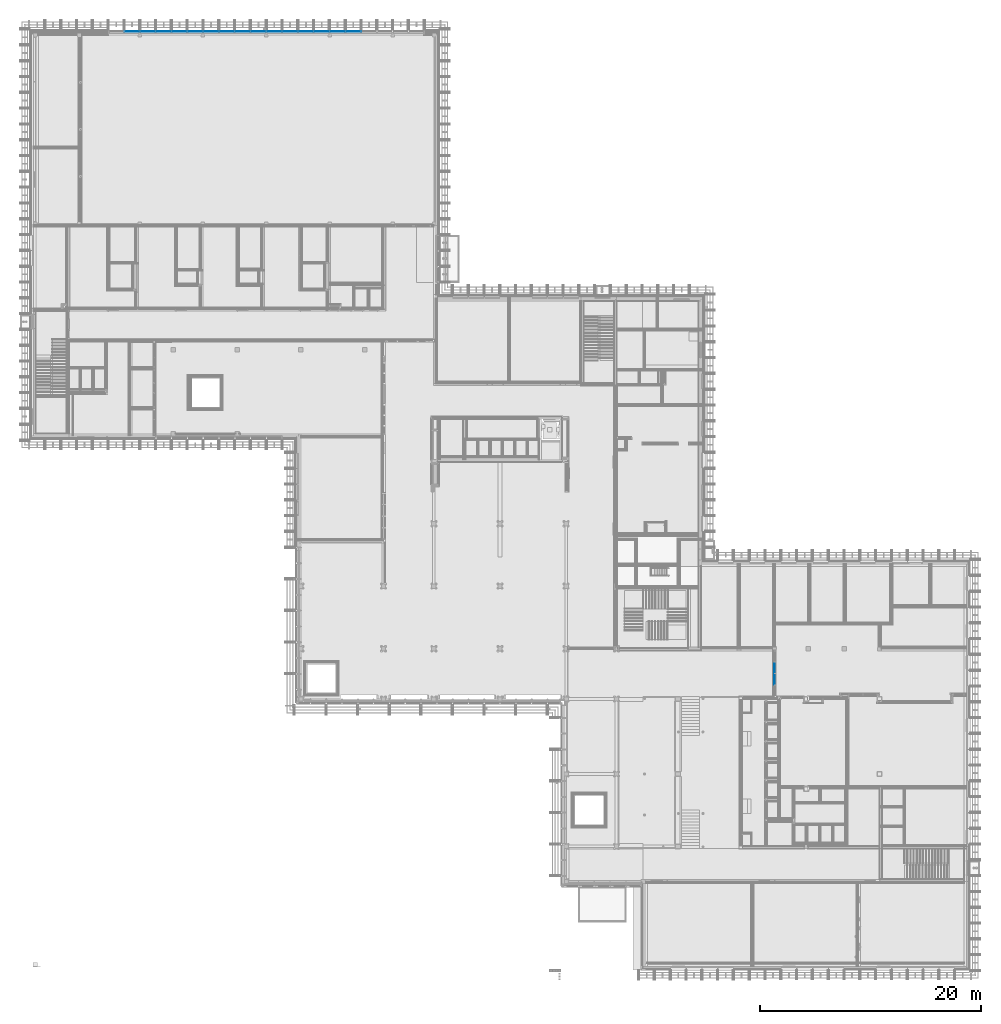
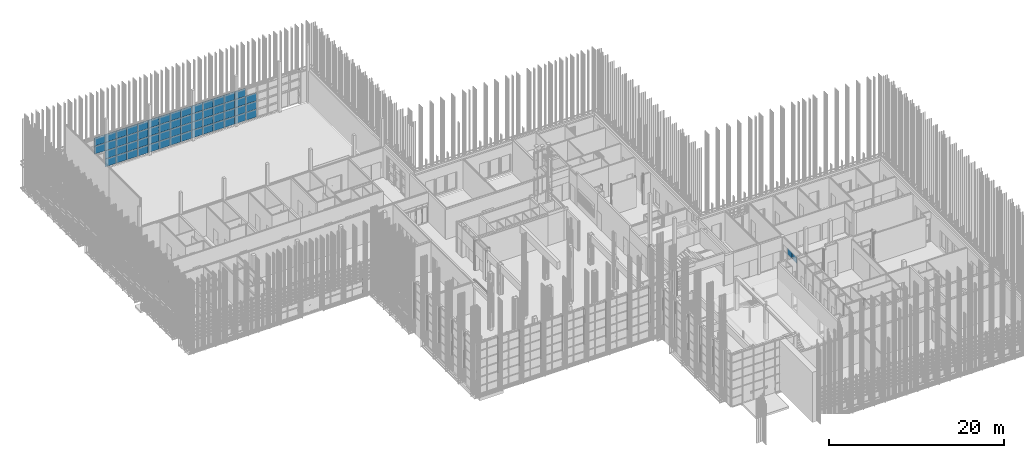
# One storey, part 56 of 260: 59 plates, 2 elements without a shape of their own.
"""IFC2X3 building model written with IfcOpenShell, lengths in millimetres."""

from ifc_helpers import new_model, entity, si_unit, converted_unit, derived_unit, money_unit, direction, frame, origin_with_axes, place, context, subcontext, project, spatial, faceted_brep, source, transform, mapped, material, type_object, element, aggregate, save


model = new_model("IFC2X3")

# Units and contexts
model_context = context("Model", 3, precision=0.01, world=origin_with_axes(), true_north=direction((0.0, 1.0)))
body_context = subcontext(model_context, "Body", "Model", "MODEL_VIEW")
ifc_project = project(units=[si_unit("LENGTHUNIT", "METRE", prefix="MILLI"), si_unit("AREAUNIT", "SQUARE_METRE"), si_unit("VOLUMEUNIT", "CUBIC_METRE"), converted_unit("PLANEANGLEUNIT", "DEGREE", entity("IfcPlaneAngleMeasure", 0.0174532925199), si_unit("PLANEANGLEUNIT", "RADIAN"), dimensions=[0, 0, 0, 0, 0, 0, 0]), money_unit("EUR"), converted_unit("TIMEUNIT", "Year", entity("IfcTimeMeasure", 31556926.0), si_unit("TIMEUNIT", "SECOND"), dimensions=[0, 0, 1, 0, 0, 0, 0]), si_unit("MASSUNIT", "GRAM", prefix="KILO"), si_unit("THERMODYNAMICTEMPERATUREUNIT", "DEGREE_CELSIUS"), si_unit("LUMINOUSINTENSITYUNIT", "LUMEN"), si_unit("ENERGYUNIT", "JOULE", prefix="MEGA"), derived_unit("THERMALCONDUCTANCEUNIT", [(si_unit("POWERUNIT", "WATT"), 1), (si_unit("LENGTHUNIT", "METRE"), -1), (si_unit("THERMODYNAMICTEMPERATUREUNIT", "KELVIN"), -1)]), derived_unit("SPECIFICHEATCAPACITYUNIT", [(si_unit("ENERGYUNIT", "JOULE"), 1), (si_unit("MASSUNIT", "GRAM", prefix="KILO"), -1), (si_unit("THERMODYNAMICTEMPERATUREUNIT", "KELVIN"), -1)]), derived_unit("MASSDENSITYUNIT", [(si_unit("MASSUNIT", "GRAM", prefix="KILO"), 1), (si_unit("VOLUMEUNIT", "CUBIC_METRE"), -1)])], contexts=[model_context])

# Site, building, storey
site_placement = place(None, origin_with_axes())
site = spatial("IfcSite", under=ifc_project, at=site_placement, Name="Kolde pst 67a", CompositionType="ELEMENT")
building_placement = place(site_placement, origin_with_axes())
building = spatial("IfcBuilding", under=site, at=building_placement, Name="Riigigümnaasium", CompositionType="ELEMENT")
storey_placement = place(building_placement, origin_with_axes())
storey = spatial("IfcBuildingStorey", under=building, at=storey_placement, Name="1. korrus", CompositionType="ELEMENT", Elevation=0.0)

# Curtain wall, plates
curtain_wall_type = type_object("IfcCurtainWallType", Name="Curtain Wall Type", PredefinedType="NOTDEFINED")
curtain_wall_1_placement = place(storey_placement, frame((10366.0828546, 84639.9999608, 0.0), z_axis=(0.0, 0.0, 1.0), x_axis=(1.0, 0.0, 0.0)))
curtain_wall_1 = element("IfcCurtainWall", 1, at=curtain_wall_1_placement, inside=storey, type_object=curtain_wall_type, Name="KLAASFASSAAD")
ifc_material_1 = material(Name="_KLAAS - kirgas")
plate_type_1 = type_object("IfcPlateType", Name="Turvaklaas 1420 x 1115 x 48", PredefinedType="CURTAIN_PANEL")
shared_shape_1 = source(origin_with_axes(), body_context, "Body", "Brep", [
    faceted_brep([(-1425.00000328, 1144.99999508, -24.0), (-1425.00000328, 1144.99999508, 24.0), (-4.99999672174, 1144.99999508, 24.0), (-4.99999672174, 1144.99999508, -24.0), (-1425.00000328, 30.0000016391, -24.0), (-1425.00000328, 30.0000016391, 24.0), (-4.99999672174, 30.0000016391, 24.0), (-4.99999672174, 30.0000016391, -24.0)], [[[0, 1, 2, 3]], [[4, 5, 1, 0]], [[1, 5, 6, 2]], [[3, 2, 6, 7]], [[0, 3, 7, 4]], [[7, 6, 5, 4]]]),
])
plate_1_placement = place(curtain_wall_1_placement, frame((0.0, 0.0, 575.0), z_axis=(0.0, 0.0, 1.0), x_axis=(-1.0, 0.0, 0.0)))
plate_1 = element("IfcPlate", 2, at=plate_1_placement, type_object=plate_type_1, material=ifc_material_1, Name="Panel-Turvaklaas-027", ObjectType="CURTAIN_PANEL", context=body_context, shape_type="MappedRepresentation", body=[
    mapped(shared_shape_1, transform((715.0, 0.0, -575.0), x_axis=(1.0, 0.0, 0.0), y_axis=(0.0, 0.0, 1.0), z_axis=(0.0, -1.0, 0.0))),
])
plate_2_placement = place(curtain_wall_1_placement, frame((1430.0, 0.0, 575.0), z_axis=(0.0, 0.0, 1.0), x_axis=(-1.0, 0.0, 0.0)))
plate_2 = element("IfcPlate", 3, at=plate_2_placement, type_object=plate_type_1, material=ifc_material_1, Name="Panel-Turvaklaas-027", ObjectType="CURTAIN_PANEL", context=body_context, shape_type="MappedRepresentation", body=[
    mapped(shared_shape_1, transform((715.0, 0.0, -575.0), x_axis=(1.0, 0.0, 0.0), y_axis=(0.0, 0.0, 1.0), z_axis=(0.0, -1.0, 0.0))),
])
plate_3_placement = place(curtain_wall_1_placement, frame((2860.0, 0.0, 575.0), z_axis=(0.0, 0.0, 1.0), x_axis=(-1.0, 0.0, 0.0)))
plate_3 = element("IfcPlate", 4, at=plate_3_placement, type_object=plate_type_1, material=ifc_material_1, Name="Panel-Turvaklaas-027", ObjectType="CURTAIN_PANEL", context=body_context, shape_type="MappedRepresentation", body=[
    mapped(shared_shape_1, transform((715.0, 0.0, -575.0), x_axis=(1.0, 0.0, 0.0), y_axis=(0.0, 0.0, 1.0), z_axis=(0.0, -1.0, 0.0))),
])
plate_4_placement = place(curtain_wall_1_placement, frame((4290.0, 0.0, 575.0), z_axis=(0.0, 0.0, 1.0), x_axis=(-1.0, 0.0, 0.0)))
plate_4 = element("IfcPlate", 5, at=plate_4_placement, type_object=plate_type_1, material=ifc_material_1, Name="Panel-Turvaklaas-027", ObjectType="CURTAIN_PANEL", context=body_context, shape_type="MappedRepresentation", body=[
    mapped(shared_shape_1, transform((715.0, 0.0, -575.0), x_axis=(1.0, 0.0, 0.0), y_axis=(0.0, 0.0, 1.0), z_axis=(0.0, -1.0, 0.0))),
])
plate_5_placement = place(curtain_wall_1_placement, frame((5720.0, 0.0, 575.0), z_axis=(0.0, 0.0, 1.0), x_axis=(-1.0, 0.0, 0.0)))
plate_5 = element("IfcPlate", 6, at=plate_5_placement, type_object=plate_type_1, material=ifc_material_1, Name="Panel-Turvaklaas-027", ObjectType="CURTAIN_PANEL", context=body_context, shape_type="MappedRepresentation", body=[
    mapped(shared_shape_1, transform((715.0, 0.0, -575.0), x_axis=(1.0, 0.0, 0.0), y_axis=(0.0, 0.0, 1.0), z_axis=(0.0, -1.0, 0.0))),
])
plate_6_placement = place(curtain_wall_1_placement, frame((7150.0, 0.0, 575.0), z_axis=(0.0, 0.0, 1.0), x_axis=(-1.0, 0.0, 0.0)))
plate_6 = element("IfcPlate", 7, at=plate_6_placement, type_object=plate_type_1, material=ifc_material_1, Name="Panel-Turvaklaas-027", ObjectType="CURTAIN_PANEL", context=body_context, shape_type="MappedRepresentation", body=[
    mapped(shared_shape_1, transform((715.0, 0.0, -575.0), x_axis=(1.0, 0.0, 0.0), y_axis=(0.0, 0.0, 1.0), z_axis=(0.0, -1.0, 0.0))),
])
plate_7_placement = place(curtain_wall_1_placement, frame((8580.0, 0.0, 575.0), z_axis=(0.0, 0.0, 1.0), x_axis=(-1.0, 0.0, 0.0)))
plate_7 = element("IfcPlate", 8, at=plate_7_placement, type_object=plate_type_1, material=ifc_material_1, Name="Panel-Turvaklaas-027", ObjectType="CURTAIN_PANEL", context=body_context, shape_type="MappedRepresentation", body=[
    mapped(shared_shape_1, transform((715.0, 0.0, -575.0), x_axis=(1.0, 0.0, 0.0), y_axis=(0.0, 0.0, 1.0), z_axis=(0.0, -1.0, 0.0))),
])
plate_8_placement = place(curtain_wall_1_placement, frame((10010.0, 0.0, 575.0), z_axis=(0.0, 0.0, 1.0), x_axis=(-1.0, 0.0, 0.0)))
plate_8 = element("IfcPlate", 9, at=plate_8_placement, type_object=plate_type_1, material=ifc_material_1, Name="Panel-Turvaklaas-027", ObjectType="CURTAIN_PANEL", context=body_context, shape_type="MappedRepresentation", body=[
    mapped(shared_shape_1, transform((715.0, 0.0, -575.0), x_axis=(1.0, 0.0, 0.0), y_axis=(0.0, 0.0, 1.0), z_axis=(0.0, -1.0, 0.0))),
])
plate_9_placement = place(curtain_wall_1_placement, frame((11440.0, 0.0, 575.0), z_axis=(0.0, 0.0, 1.0), x_axis=(-1.0, 0.0, 0.0)))
plate_9 = element("IfcPlate", 10, at=plate_9_placement, type_object=plate_type_1, material=ifc_material_1, Name="Panel-Turvaklaas-027", ObjectType="CURTAIN_PANEL", context=body_context, shape_type="MappedRepresentation", body=[
    mapped(shared_shape_1, transform((715.0, 0.0, -575.0), x_axis=(1.0, 0.0, 0.0), y_axis=(0.0, 0.0, 1.0), z_axis=(0.0, -1.0, 0.0))),
])
plate_10_placement = place(curtain_wall_1_placement, frame((12870.0, 0.0, 575.0), z_axis=(0.0, 0.0, 1.0), x_axis=(-1.0, 0.0, 0.0)))
plate_10 = element("IfcPlate", 11, at=plate_10_placement, type_object=plate_type_1, material=ifc_material_1, Name="Panel-Turvaklaas-027", ObjectType="CURTAIN_PANEL", context=body_context, shape_type="MappedRepresentation", body=[
    mapped(shared_shape_1, transform((715.0, 0.0, -575.0), x_axis=(1.0, 0.0, 0.0), y_axis=(0.0, 0.0, 1.0), z_axis=(0.0, -1.0, 0.0))),
])
plate_11_placement = place(curtain_wall_1_placement, frame((14300.0, 0.0, 575.0), z_axis=(0.0, 0.0, 1.0), x_axis=(-1.0, 0.0, 0.0)))
plate_11 = element("IfcPlate", 12, at=plate_11_placement, type_object=plate_type_1, material=ifc_material_1, Name="Panel-Turvaklaas-027", ObjectType="CURTAIN_PANEL", context=body_context, shape_type="MappedRepresentation", body=[
    mapped(shared_shape_1, transform((715.0, 0.0, -575.0), x_axis=(1.0, 0.0, 0.0), y_axis=(0.0, 0.0, 1.0), z_axis=(0.0, -1.0, 0.0))),
])
plate_12_placement = place(curtain_wall_1_placement, frame((15730.0, 0.0, 575.0), z_axis=(0.0, 0.0, 1.0), x_axis=(-1.0, 0.0, 0.0)))
plate_12 = element("IfcPlate", 13, at=plate_12_placement, type_object=plate_type_1, material=ifc_material_1, Name="Panel-Turvaklaas-027", ObjectType="CURTAIN_PANEL", context=body_context, shape_type="MappedRepresentation", body=[
    mapped(shared_shape_1, transform((715.0, 0.0, -575.0), x_axis=(1.0, 0.0, 0.0), y_axis=(0.0, 0.0, 1.0), z_axis=(0.0, -1.0, 0.0))),
])
plate_13_placement = place(curtain_wall_1_placement, frame((17160.0, 0.0, 575.0), z_axis=(0.0, 0.0, 1.0), x_axis=(-1.0, 0.0, 0.0)))
plate_13 = element("IfcPlate", 14, at=plate_13_placement, type_object=plate_type_1, material=ifc_material_1, Name="Panel-Turvaklaas-027", ObjectType="CURTAIN_PANEL", context=body_context, shape_type="MappedRepresentation", body=[
    mapped(shared_shape_1, transform((715.0, 0.0, -575.0), x_axis=(1.0, 0.0, 0.0), y_axis=(0.0, 0.0, 1.0), z_axis=(0.0, -1.0, 0.0))),
])
plate_14_placement = place(curtain_wall_1_placement, frame((18590.0, 0.0, 575.0), z_axis=(0.0, 0.0, 1.0), x_axis=(-1.0, 0.0, 0.0)))
plate_14 = element("IfcPlate", 15, at=plate_14_placement, type_object=plate_type_1, material=ifc_material_1, Name="Panel-Turvaklaas-027", ObjectType="CURTAIN_PANEL", context=body_context, shape_type="MappedRepresentation", body=[
    mapped(shared_shape_1, transform((715.0, 0.0, -575.0), x_axis=(1.0, 0.0, 0.0), y_axis=(0.0, 0.0, 1.0), z_axis=(0.0, -1.0, 0.0))),
])
plate_type_2 = type_object("IfcPlateType", Name="Turvaklaas 1420 x 1140 x 48", PredefinedType="CURTAIN_PANEL")
shared_shape_2 = source(origin_with_axes(), body_context, "Body", "Brep", [
    faceted_brep([(-1425.00000328, 1144.99999508, -24.0), (-1425.00000328, 1144.99999508, 24.0), (-4.99999672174, 1144.99999508, 24.0), (-4.99999672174, 1144.99999508, -24.0), (-1425.00000328, 4.99999672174, -24.0), (-1425.00000328, 4.99999672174, 24.0), (-4.99999672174, 4.99999672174, 24.0), (-4.99999672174, 4.99999672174, -24.0)], [[[0, 1, 2, 3]], [[4, 5, 1, 0]], [[1, 5, 6, 2]], [[3, 2, 6, 7]], [[0, 3, 7, 4]], [[7, 6, 5, 4]]]),
])
plate_15_placement = place(curtain_wall_1_placement, frame((0.0, 0.0, 1725.0), z_axis=(0.0, 0.0, 1.0), x_axis=(-1.0, 0.0, 0.0)))
plate_15 = element("IfcPlate", 16, at=plate_15_placement, type_object=plate_type_2, material=ifc_material_1, Name="Panel-Turvaklaas-029", ObjectType="CURTAIN_PANEL", context=body_context, shape_type="MappedRepresentation", body=[
    mapped(shared_shape_2, transform((715.0, 0.0, -575.0), x_axis=(1.0, 0.0, 0.0), y_axis=(0.0, 0.0, 1.0), z_axis=(0.0, -1.0, 0.0))),
])
plate_16_placement = place(curtain_wall_1_placement, frame((1430.0, 0.0, 1725.0), z_axis=(0.0, 0.0, 1.0), x_axis=(-1.0, 0.0, 0.0)))
plate_16 = element("IfcPlate", 17, at=plate_16_placement, type_object=plate_type_2, material=ifc_material_1, Name="Panel-Turvaklaas-030", ObjectType="CURTAIN_PANEL", context=body_context, shape_type="MappedRepresentation", body=[
    mapped(shared_shape_2, transform((715.0, 0.0, -575.0), x_axis=(1.0, 0.0, 0.0), y_axis=(0.0, 0.0, 1.0), z_axis=(0.0, -1.0, 0.0))),
])
plate_17_placement = place(curtain_wall_1_placement, frame((2860.0, 0.0, 1725.0), z_axis=(0.0, 0.0, 1.0), x_axis=(-1.0, 0.0, 0.0)))
plate_17 = element("IfcPlate", 18, at=plate_17_placement, type_object=plate_type_2, material=ifc_material_1, Name="Panel-Turvaklaas-031", ObjectType="CURTAIN_PANEL", context=body_context, shape_type="MappedRepresentation", body=[
    mapped(shared_shape_2, transform((715.0, 0.0, -575.0), x_axis=(1.0, 0.0, 0.0), y_axis=(0.0, 0.0, 1.0), z_axis=(0.0, -1.0, 0.0))),
])
plate_18_placement = place(curtain_wall_1_placement, frame((4290.0, 0.0, 1725.0), z_axis=(0.0, 0.0, 1.0), x_axis=(-1.0, 0.0, 0.0)))
plate_18 = element("IfcPlate", 19, at=plate_18_placement, type_object=plate_type_2, material=ifc_material_1, Name="Panel-Turvaklaas-032", ObjectType="CURTAIN_PANEL", context=body_context, shape_type="MappedRepresentation", body=[
    mapped(shared_shape_2, transform((715.0, 0.0, -575.0), x_axis=(1.0, 0.0, 0.0), y_axis=(0.0, 0.0, 1.0), z_axis=(0.0, -1.0, 0.0))),
])
plate_19_placement = place(curtain_wall_1_placement, frame((5720.0, 0.0, 1725.0), z_axis=(0.0, 0.0, 1.0), x_axis=(-1.0, 0.0, 0.0)))
plate_19 = element("IfcPlate", 20, at=plate_19_placement, type_object=plate_type_2, material=ifc_material_1, Name="Panel-Turvaklaas-033", ObjectType="CURTAIN_PANEL", context=body_context, shape_type="MappedRepresentation", body=[
    mapped(shared_shape_2, transform((715.0, 0.0, -575.0), x_axis=(1.0, 0.0, 0.0), y_axis=(0.0, 0.0, 1.0), z_axis=(0.0, -1.0, 0.0))),
])
plate_20_placement = place(curtain_wall_1_placement, frame((7150.0, 0.0, 1725.0), z_axis=(0.0, 0.0, 1.0), x_axis=(-1.0, 0.0, 0.0)))
plate_20 = element("IfcPlate", 21, at=plate_20_placement, type_object=plate_type_2, material=ifc_material_1, Name="Panel-Turvaklaas-034", ObjectType="CURTAIN_PANEL", context=body_context, shape_type="MappedRepresentation", body=[
    mapped(shared_shape_2, transform((715.0, 0.0, -575.0), x_axis=(1.0, 0.0, 0.0), y_axis=(0.0, 0.0, 1.0), z_axis=(0.0, -1.0, 0.0))),
])
plate_21_placement = place(curtain_wall_1_placement, frame((8580.0, 0.0, 1725.0), z_axis=(0.0, 0.0, 1.0), x_axis=(-1.0, 0.0, 0.0)))
plate_21 = element("IfcPlate", 22, at=plate_21_placement, type_object=plate_type_2, material=ifc_material_1, Name="Panel-Turvaklaas-035", ObjectType="CURTAIN_PANEL", context=body_context, shape_type="MappedRepresentation", body=[
    mapped(shared_shape_2, transform((715.0, 0.0, -575.0), x_axis=(1.0, 0.0, 0.0), y_axis=(0.0, 0.0, 1.0), z_axis=(0.0, -1.0, 0.0))),
])
plate_22_placement = place(curtain_wall_1_placement, frame((10010.0, 0.0, 1725.0), z_axis=(0.0, 0.0, 1.0), x_axis=(-1.0, 0.0, 0.0)))
plate_22 = element("IfcPlate", 23, at=plate_22_placement, type_object=plate_type_2, material=ifc_material_1, Name="Panel-Turvaklaas-036", ObjectType="CURTAIN_PANEL", context=body_context, shape_type="MappedRepresentation", body=[
    mapped(shared_shape_2, transform((715.0, 0.0, -575.0), x_axis=(1.0, 0.0, 0.0), y_axis=(0.0, 0.0, 1.0), z_axis=(0.0, -1.0, 0.0))),
])
plate_23_placement = place(curtain_wall_1_placement, frame((11440.0, 0.0, 1725.0), z_axis=(0.0, 0.0, 1.0), x_axis=(-1.0, 0.0, 0.0)))
plate_23 = element("IfcPlate", 24, at=plate_23_placement, type_object=plate_type_2, material=ifc_material_1, Name="Panel-Turvaklaas-037", ObjectType="CURTAIN_PANEL", context=body_context, shape_type="MappedRepresentation", body=[
    mapped(shared_shape_2, transform((715.0, 0.0, -575.0), x_axis=(1.0, 0.0, 0.0), y_axis=(0.0, 0.0, 1.0), z_axis=(0.0, -1.0, 0.0))),
])
plate_24_placement = place(curtain_wall_1_placement, frame((12870.0, 0.0, 1725.0), z_axis=(0.0, 0.0, 1.0), x_axis=(-1.0, 0.0, 0.0)))
plate_24 = element("IfcPlate", 25, at=plate_24_placement, type_object=plate_type_2, material=ifc_material_1, Name="Panel-Turvaklaas-038", ObjectType="CURTAIN_PANEL", context=body_context, shape_type="MappedRepresentation", body=[
    mapped(shared_shape_2, transform((715.0, 0.0, -575.0), x_axis=(1.0, 0.0, 0.0), y_axis=(0.0, 0.0, 1.0), z_axis=(0.0, -1.0, 0.0))),
])
plate_25_placement = place(curtain_wall_1_placement, frame((14300.0, 0.0, 1725.0), z_axis=(0.0, 0.0, 1.0), x_axis=(-1.0, 0.0, 0.0)))
plate_25 = element("IfcPlate", 26, at=plate_25_placement, type_object=plate_type_2, material=ifc_material_1, Name="Panel-Turvaklaas-039", ObjectType="CURTAIN_PANEL", context=body_context, shape_type="MappedRepresentation", body=[
    mapped(shared_shape_2, transform((715.0, 0.0, -575.0), x_axis=(1.0, 0.0, 0.0), y_axis=(0.0, 0.0, 1.0), z_axis=(0.0, -1.0, 0.0))),
])
plate_26_placement = place(curtain_wall_1_placement, frame((15730.0, 0.0, 1725.0), z_axis=(0.0, 0.0, 1.0), x_axis=(-1.0, 0.0, 0.0)))
plate_26 = element("IfcPlate", 27, at=plate_26_placement, type_object=plate_type_2, material=ifc_material_1, Name="Panel-Turvaklaas-040", ObjectType="CURTAIN_PANEL", context=body_context, shape_type="MappedRepresentation", body=[
    mapped(shared_shape_2, transform((715.0, 0.0, -575.0), x_axis=(1.0, 0.0, 0.0), y_axis=(0.0, 0.0, 1.0), z_axis=(0.0, -1.0, 0.0))),
])
plate_27_placement = place(curtain_wall_1_placement, frame((17160.0, 0.0, 1725.0), z_axis=(0.0, 0.0, 1.0), x_axis=(-1.0, 0.0, 0.0)))
plate_27 = element("IfcPlate", 28, at=plate_27_placement, type_object=plate_type_2, material=ifc_material_1, Name="Panel-Turvaklaas-041", ObjectType="CURTAIN_PANEL", context=body_context, shape_type="MappedRepresentation", body=[
    mapped(shared_shape_2, transform((715.0, 0.0, -575.0), x_axis=(1.0, 0.0, 0.0), y_axis=(0.0, 0.0, 1.0), z_axis=(0.0, -1.0, 0.0))),
])
plate_28_placement = place(curtain_wall_1_placement, frame((18590.0, 0.0, 1725.0), z_axis=(0.0, 0.0, 1.0), x_axis=(-1.0, 0.0, 0.0)))
plate_28 = element("IfcPlate", 29, at=plate_28_placement, type_object=plate_type_2, material=ifc_material_1, Name="Panel-Turvaklaas-042", ObjectType="CURTAIN_PANEL", context=body_context, shape_type="MappedRepresentation", body=[
    mapped(shared_shape_2, transform((715.0, 0.0, -575.0), x_axis=(1.0, 0.0, 0.0), y_axis=(0.0, 0.0, 1.0), z_axis=(0.0, -1.0, 0.0))),
])
plate_29_placement = place(curtain_wall_1_placement, frame((-1430.0, 0.0, 2875.0), z_axis=(0.0, 0.0, 1.0), x_axis=(-1.0, 0.0, 0.0)))
plate_29 = element("IfcPlate", 30, at=plate_29_placement, type_object=plate_type_2, material=ifc_material_1, Name="Panel-Turvaklaas-048", ObjectType="CURTAIN_PANEL", context=body_context, shape_type="MappedRepresentation", body=[
    mapped(shared_shape_2, transform((715.0, 0.0, -575.0), x_axis=(1.0, 0.0, 0.0), y_axis=(0.0, 0.0, 1.0), z_axis=(0.0, -1.0, 0.0))),
])
plate_30_placement = place(curtain_wall_1_placement, frame((0.0, 0.0, 2875.0), z_axis=(0.0, 0.0, 1.0), x_axis=(-1.0, 0.0, 0.0)))
plate_30 = element("IfcPlate", 31, at=plate_30_placement, type_object=plate_type_2, material=ifc_material_1, Name="Panel-Turvaklaas-049", ObjectType="CURTAIN_PANEL", context=body_context, shape_type="MappedRepresentation", body=[
    mapped(shared_shape_2, transform((715.0, 0.0, -575.0), x_axis=(1.0, 0.0, 0.0), y_axis=(0.0, 0.0, 1.0), z_axis=(0.0, -1.0, 0.0))),
])
plate_31_placement = place(curtain_wall_1_placement, frame((1430.0, 0.0, 2875.0), z_axis=(0.0, 0.0, 1.0), x_axis=(-1.0, 0.0, 0.0)))
plate_31 = element("IfcPlate", 32, at=plate_31_placement, type_object=plate_type_2, material=ifc_material_1, Name="Panel-Turvaklaas-050", ObjectType="CURTAIN_PANEL", context=body_context, shape_type="MappedRepresentation", body=[
    mapped(shared_shape_2, transform((715.0, 0.0, -575.0), x_axis=(1.0, 0.0, 0.0), y_axis=(0.0, 0.0, 1.0), z_axis=(0.0, -1.0, 0.0))),
])
plate_32_placement = place(curtain_wall_1_placement, frame((2860.0, 0.0, 2875.0), z_axis=(0.0, 0.0, 1.0), x_axis=(-1.0, 0.0, 0.0)))
plate_32 = element("IfcPlate", 33, at=plate_32_placement, type_object=plate_type_2, material=ifc_material_1, Name="Panel-Turvaklaas-051", ObjectType="CURTAIN_PANEL", context=body_context, shape_type="MappedRepresentation", body=[
    mapped(shared_shape_2, transform((715.0, 0.0, -575.0), x_axis=(1.0, 0.0, 0.0), y_axis=(0.0, 0.0, 1.0), z_axis=(0.0, -1.0, 0.0))),
])
plate_33_placement = place(curtain_wall_1_placement, frame((4290.0, 0.0, 2875.0), z_axis=(0.0, 0.0, 1.0), x_axis=(-1.0, 0.0, 0.0)))
plate_33 = element("IfcPlate", 34, at=plate_33_placement, type_object=plate_type_2, material=ifc_material_1, Name="Panel-Turvaklaas-052", ObjectType="CURTAIN_PANEL", context=body_context, shape_type="MappedRepresentation", body=[
    mapped(shared_shape_2, transform((715.0, 0.0, -575.0), x_axis=(1.0, 0.0, 0.0), y_axis=(0.0, 0.0, 1.0), z_axis=(0.0, -1.0, 0.0))),
])
plate_34_placement = place(curtain_wall_1_placement, frame((5720.0, 0.0, 2875.0), z_axis=(0.0, 0.0, 1.0), x_axis=(-1.0, 0.0, 0.0)))
plate_34 = element("IfcPlate", 35, at=plate_34_placement, type_object=plate_type_2, material=ifc_material_1, Name="Panel-Turvaklaas-053", ObjectType="CURTAIN_PANEL", context=body_context, shape_type="MappedRepresentation", body=[
    mapped(shared_shape_2, transform((715.0, 0.0, -575.0), x_axis=(1.0, 0.0, 0.0), y_axis=(0.0, 0.0, 1.0), z_axis=(0.0, -1.0, 0.0))),
])
plate_35_placement = place(curtain_wall_1_placement, frame((7150.0, 0.0, 2875.0), z_axis=(0.0, 0.0, 1.0), x_axis=(-1.0, 0.0, 0.0)))
plate_35 = element("IfcPlate", 36, at=plate_35_placement, type_object=plate_type_2, material=ifc_material_1, Name="Panel-Turvaklaas-054", ObjectType="CURTAIN_PANEL", context=body_context, shape_type="MappedRepresentation", body=[
    mapped(shared_shape_2, transform((715.0, 0.0, -575.0), x_axis=(1.0, 0.0, 0.0), y_axis=(0.0, 0.0, 1.0), z_axis=(0.0, -1.0, 0.0))),
])
plate_36_placement = place(curtain_wall_1_placement, frame((8580.0, 0.0, 2875.0), z_axis=(0.0, 0.0, 1.0), x_axis=(-1.0, 0.0, 0.0)))
plate_36 = element("IfcPlate", 37, at=plate_36_placement, type_object=plate_type_2, material=ifc_material_1, Name="Panel-Turvaklaas-055", ObjectType="CURTAIN_PANEL", context=body_context, shape_type="MappedRepresentation", body=[
    mapped(shared_shape_2, transform((715.0, 0.0, -575.0), x_axis=(1.0, 0.0, 0.0), y_axis=(0.0, 0.0, 1.0), z_axis=(0.0, -1.0, 0.0))),
])
plate_37_placement = place(curtain_wall_1_placement, frame((10010.0, 0.0, 2875.0), z_axis=(0.0, 0.0, 1.0), x_axis=(-1.0, 0.0, 0.0)))
plate_37 = element("IfcPlate", 38, at=plate_37_placement, type_object=plate_type_2, material=ifc_material_1, Name="Panel-Turvaklaas-056", ObjectType="CURTAIN_PANEL", context=body_context, shape_type="MappedRepresentation", body=[
    mapped(shared_shape_2, transform((715.0, 0.0, -575.0), x_axis=(1.0, 0.0, 0.0), y_axis=(0.0, 0.0, 1.0), z_axis=(0.0, -1.0, 0.0))),
])
plate_38_placement = place(curtain_wall_1_placement, frame((11440.0, 0.0, 2875.0), z_axis=(0.0, 0.0, 1.0), x_axis=(-1.0, 0.0, 0.0)))
plate_38 = element("IfcPlate", 39, at=plate_38_placement, type_object=plate_type_2, material=ifc_material_1, Name="Panel-Turvaklaas-057", ObjectType="CURTAIN_PANEL", context=body_context, shape_type="MappedRepresentation", body=[
    mapped(shared_shape_2, transform((715.0, 0.0, -575.0), x_axis=(1.0, 0.0, 0.0), y_axis=(0.0, 0.0, 1.0), z_axis=(0.0, -1.0, 0.0))),
])
plate_39_placement = place(curtain_wall_1_placement, frame((12870.0, 0.0, 2875.0), z_axis=(0.0, 0.0, 1.0), x_axis=(-1.0, 0.0, 0.0)))
plate_39 = element("IfcPlate", 40, at=plate_39_placement, type_object=plate_type_2, material=ifc_material_1, Name="Panel-Turvaklaas-058", ObjectType="CURTAIN_PANEL", context=body_context, shape_type="MappedRepresentation", body=[
    mapped(shared_shape_2, transform((715.0, 0.0, -575.0), x_axis=(1.0, 0.0, 0.0), y_axis=(0.0, 0.0, 1.0), z_axis=(0.0, -1.0, 0.0))),
])
plate_40_placement = place(curtain_wall_1_placement, frame((14300.0, 0.0, 2875.0), z_axis=(0.0, 0.0, 1.0), x_axis=(-1.0, 0.0, 0.0)))
plate_40 = element("IfcPlate", 41, at=plate_40_placement, type_object=plate_type_2, material=ifc_material_1, Name="Panel-Turvaklaas-059", ObjectType="CURTAIN_PANEL", context=body_context, shape_type="MappedRepresentation", body=[
    mapped(shared_shape_2, transform((715.0, 0.0, -575.0), x_axis=(1.0, 0.0, 0.0), y_axis=(0.0, 0.0, 1.0), z_axis=(0.0, -1.0, 0.0))),
])
plate_41_placement = place(curtain_wall_1_placement, frame((15730.0, 0.0, 2875.0), z_axis=(0.0, 0.0, 1.0), x_axis=(-1.0, 0.0, 0.0)))
plate_41 = element("IfcPlate", 42, at=plate_41_placement, type_object=plate_type_2, material=ifc_material_1, Name="Panel-Turvaklaas-060", ObjectType="CURTAIN_PANEL", context=body_context, shape_type="MappedRepresentation", body=[
    mapped(shared_shape_2, transform((715.0, 0.0, -575.0), x_axis=(1.0, 0.0, 0.0), y_axis=(0.0, 0.0, 1.0), z_axis=(0.0, -1.0, 0.0))),
])
plate_42_placement = place(curtain_wall_1_placement, frame((17160.0, 0.0, 2875.0), z_axis=(0.0, 0.0, 1.0), x_axis=(-1.0, 0.0, 0.0)))
plate_42 = element("IfcPlate", 43, at=plate_42_placement, type_object=plate_type_2, material=ifc_material_1, Name="Panel-Turvaklaas-061", ObjectType="CURTAIN_PANEL", context=body_context, shape_type="MappedRepresentation", body=[
    mapped(shared_shape_2, transform((715.0, 0.0, -575.0), x_axis=(1.0, 0.0, 0.0), y_axis=(0.0, 0.0, 1.0), z_axis=(0.0, -1.0, 0.0))),
])
plate_43_placement = place(curtain_wall_1_placement, frame((18590.0, 0.0, 2875.0), z_axis=(0.0, 0.0, 1.0), x_axis=(-1.0, 0.0, 0.0)))
plate_43 = element("IfcPlate", 44, at=plate_43_placement, type_object=plate_type_2, material=ifc_material_1, Name="Panel-Turvaklaas-062", ObjectType="CURTAIN_PANEL", context=body_context, shape_type="MappedRepresentation", body=[
    mapped(shared_shape_2, transform((715.0, 0.0, -575.0), x_axis=(1.0, 0.0, 0.0), y_axis=(0.0, 0.0, 1.0), z_axis=(0.0, -1.0, 0.0))),
])
shared_shape_3 = source(origin_with_axes(), body_context, "Body", "Brep", [
    faceted_brep([(-1425.00000328, 1119.99999017, -24.0), (-1425.00000328, 1119.99999017, 24.0), (-4.99999672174, 1119.99999017, 24.0), (-4.99999672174, 1119.99999017, -24.0), (-1425.00000328, 4.99999672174, -24.0), (-1425.00000328, 4.99999672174, 24.0), (-4.99999672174, 4.99999672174, 24.0), (-4.99999672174, 4.99999672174, -24.0)], [[[0, 1, 2, 3]], [[4, 5, 1, 0]], [[1, 5, 6, 2]], [[3, 2, 6, 7]], [[0, 3, 7, 4]], [[7, 6, 5, 4]]]),
])
plate_44_placement = place(curtain_wall_1_placement, frame((-1430.0, 0.0, 4025.0), z_axis=(0.0, 0.0, 1.0), x_axis=(-1.0, 0.0, 0.0)))
plate_44 = element("IfcPlate", 45, at=plate_44_placement, type_object=plate_type_1, material=ifc_material_1, Name="Panel-Turvaklaas-070", ObjectType="CURTAIN_PANEL", context=body_context, shape_type="MappedRepresentation", body=[
    mapped(shared_shape_3, transform((715.0, 0.0, -575.0), x_axis=(1.0, 0.0, 0.0), y_axis=(0.0, 0.0, 1.0), z_axis=(0.0, -1.0, 0.0))),
])
plate_45_placement = place(curtain_wall_1_placement, frame((0.0, 0.0, 4025.0), z_axis=(0.0, 0.0, 1.0), x_axis=(-1.0, 0.0, 0.0)))
plate_45 = element("IfcPlate", 46, at=plate_45_placement, type_object=plate_type_1, material=ifc_material_1, Name="Panel-Turvaklaas-071", ObjectType="CURTAIN_PANEL", context=body_context, shape_type="MappedRepresentation", body=[
    mapped(shared_shape_3, transform((715.0, 0.0, -575.0), x_axis=(1.0, 0.0, 0.0), y_axis=(0.0, 0.0, 1.0), z_axis=(0.0, -1.0, 0.0))),
])
plate_46_placement = place(curtain_wall_1_placement, frame((1430.0, 0.0, 4025.0), z_axis=(0.0, 0.0, 1.0), x_axis=(-1.0, 0.0, 0.0)))
plate_46 = element("IfcPlate", 47, at=plate_46_placement, type_object=plate_type_1, material=ifc_material_1, Name="Panel-Turvaklaas-072", ObjectType="CURTAIN_PANEL", context=body_context, shape_type="MappedRepresentation", body=[
    mapped(shared_shape_3, transform((715.0, 0.0, -575.0), x_axis=(1.0, 0.0, 0.0), y_axis=(0.0, 0.0, 1.0), z_axis=(0.0, -1.0, 0.0))),
])
plate_47_placement = place(curtain_wall_1_placement, frame((2860.0, 0.0, 4025.0), z_axis=(0.0, 0.0, 1.0), x_axis=(-1.0, 0.0, 0.0)))
plate_47 = element("IfcPlate", 48, at=plate_47_placement, type_object=plate_type_1, material=ifc_material_1, Name="Panel-Turvaklaas-073", ObjectType="CURTAIN_PANEL", context=body_context, shape_type="MappedRepresentation", body=[
    mapped(shared_shape_3, transform((715.0, 0.0, -575.0), x_axis=(1.0, 0.0, 0.0), y_axis=(0.0, 0.0, 1.0), z_axis=(0.0, -1.0, 0.0))),
])
plate_48_placement = place(curtain_wall_1_placement, frame((4290.0, 0.0, 4025.0), z_axis=(0.0, 0.0, 1.0), x_axis=(-1.0, 0.0, 0.0)))
plate_48 = element("IfcPlate", 49, at=plate_48_placement, type_object=plate_type_1, material=ifc_material_1, Name="Panel-Turvaklaas-074", ObjectType="CURTAIN_PANEL", context=body_context, shape_type="MappedRepresentation", body=[
    mapped(shared_shape_3, transform((715.0, 0.0, -575.0), x_axis=(1.0, 0.0, 0.0), y_axis=(0.0, 0.0, 1.0), z_axis=(0.0, -1.0, 0.0))),
])
plate_49_placement = place(curtain_wall_1_placement, frame((5720.0, 0.0, 4025.0), z_axis=(0.0, 0.0, 1.0), x_axis=(-1.0, 0.0, 0.0)))
plate_49 = element("IfcPlate", 50, at=plate_49_placement, type_object=plate_type_1, material=ifc_material_1, Name="Panel-Turvaklaas-075", ObjectType="CURTAIN_PANEL", context=body_context, shape_type="MappedRepresentation", body=[
    mapped(shared_shape_3, transform((715.0, 0.0, -575.0), x_axis=(1.0, 0.0, 0.0), y_axis=(0.0, 0.0, 1.0), z_axis=(0.0, -1.0, 0.0))),
])
plate_50_placement = place(curtain_wall_1_placement, frame((7150.0, 0.0, 4025.0), z_axis=(0.0, 0.0, 1.0), x_axis=(-1.0, 0.0, 0.0)))
plate_50 = element("IfcPlate", 51, at=plate_50_placement, type_object=plate_type_1, material=ifc_material_1, Name="Panel-Turvaklaas-076", ObjectType="CURTAIN_PANEL", context=body_context, shape_type="MappedRepresentation", body=[
    mapped(shared_shape_3, transform((715.0, 0.0, -575.0), x_axis=(1.0, 0.0, 0.0), y_axis=(0.0, 0.0, 1.0), z_axis=(0.0, -1.0, 0.0))),
])
plate_51_placement = place(curtain_wall_1_placement, frame((8580.0, 0.0, 4025.0), z_axis=(0.0, 0.0, 1.0), x_axis=(-1.0, 0.0, 0.0)))
plate_51 = element("IfcPlate", 52, at=plate_51_placement, type_object=plate_type_1, material=ifc_material_1, Name="Panel-Turvaklaas-077", ObjectType="CURTAIN_PANEL", context=body_context, shape_type="MappedRepresentation", body=[
    mapped(shared_shape_3, transform((715.0, 0.0, -575.0), x_axis=(1.0, 0.0, 0.0), y_axis=(0.0, 0.0, 1.0), z_axis=(0.0, -1.0, 0.0))),
])
plate_52_placement = place(curtain_wall_1_placement, frame((10010.0, 0.0, 4025.0), z_axis=(0.0, 0.0, 1.0), x_axis=(-1.0, 0.0, 0.0)))
plate_52 = element("IfcPlate", 53, at=plate_52_placement, type_object=plate_type_1, material=ifc_material_1, Name="Panel-Turvaklaas-078", ObjectType="CURTAIN_PANEL", context=body_context, shape_type="MappedRepresentation", body=[
    mapped(shared_shape_3, transform((715.0, 0.0, -575.0), x_axis=(1.0, 0.0, 0.0), y_axis=(0.0, 0.0, 1.0), z_axis=(0.0, -1.0, 0.0))),
])
plate_53_placement = place(curtain_wall_1_placement, frame((11440.0, 0.0, 4025.0), z_axis=(0.0, 0.0, 1.0), x_axis=(-1.0, 0.0, 0.0)))
plate_53 = element("IfcPlate", 54, at=plate_53_placement, type_object=plate_type_1, material=ifc_material_1, Name="Panel-Turvaklaas-079", ObjectType="CURTAIN_PANEL", context=body_context, shape_type="MappedRepresentation", body=[
    mapped(shared_shape_3, transform((715.0, 0.0, -575.0), x_axis=(1.0, 0.0, 0.0), y_axis=(0.0, 0.0, 1.0), z_axis=(0.0, -1.0, 0.0))),
])
plate_54_placement = place(curtain_wall_1_placement, frame((12870.0, 0.0, 4025.0), z_axis=(0.0, 0.0, 1.0), x_axis=(-1.0, 0.0, 0.0)))
plate_54 = element("IfcPlate", 55, at=plate_54_placement, type_object=plate_type_1, material=ifc_material_1, Name="Panel-Turvaklaas-080", ObjectType="CURTAIN_PANEL", context=body_context, shape_type="MappedRepresentation", body=[
    mapped(shared_shape_3, transform((715.0, 0.0, -575.0), x_axis=(1.0, 0.0, 0.0), y_axis=(0.0, 0.0, 1.0), z_axis=(0.0, -1.0, 0.0))),
])
plate_55_placement = place(curtain_wall_1_placement, frame((14300.0, 0.0, 4025.0), z_axis=(0.0, 0.0, 1.0), x_axis=(-1.0, 0.0, 0.0)))
plate_55 = element("IfcPlate", 56, at=plate_55_placement, type_object=plate_type_1, material=ifc_material_1, Name="Panel-Turvaklaas-081", ObjectType="CURTAIN_PANEL", context=body_context, shape_type="MappedRepresentation", body=[
    mapped(shared_shape_3, transform((715.0, 0.0, -575.0), x_axis=(1.0, 0.0, 0.0), y_axis=(0.0, 0.0, 1.0), z_axis=(0.0, -1.0, 0.0))),
])
plate_56_placement = place(curtain_wall_1_placement, frame((15730.0, 0.0, 4025.0), z_axis=(0.0, 0.0, 1.0), x_axis=(-1.0, 0.0, 0.0)))
plate_56 = element("IfcPlate", 57, at=plate_56_placement, type_object=plate_type_1, material=ifc_material_1, Name="Panel-Turvaklaas-082", ObjectType="CURTAIN_PANEL", context=body_context, shape_type="MappedRepresentation", body=[
    mapped(shared_shape_3, transform((715.0, 0.0, -575.0), x_axis=(1.0, 0.0, 0.0), y_axis=(0.0, 0.0, 1.0), z_axis=(0.0, -1.0, 0.0))),
])
plate_57_placement = place(curtain_wall_1_placement, frame((17160.0, 0.0, 4025.0), z_axis=(0.0, 0.0, 1.0), x_axis=(-1.0, 0.0, 0.0)))
plate_57 = element("IfcPlate", 58, at=plate_57_placement, type_object=plate_type_1, material=ifc_material_1, Name="Panel-Turvaklaas-083", ObjectType="CURTAIN_PANEL", context=body_context, shape_type="MappedRepresentation", body=[
    mapped(shared_shape_3, transform((715.0, 0.0, -575.0), x_axis=(1.0, 0.0, 0.0), y_axis=(0.0, 0.0, 1.0), z_axis=(0.0, -1.0, 0.0))),
])
aggregate(curtain_wall_1, [plate_1, plate_2, plate_3, plate_4, plate_5, plate_6, plate_7, plate_8, plate_9, plate_10, plate_11, plate_12, plate_13, plate_14, plate_15, plate_16, plate_17, plate_18, plate_19, plate_20, plate_21, plate_22, plate_23, plate_24, plate_25, plate_26, plate_27, plate_28, plate_29, plate_30, plate_31, plate_32, plate_33, plate_34, plate_35, plate_36, plate_37, plate_38, plate_39, plate_40, plate_41, plate_42, plate_43, plate_44, plate_45, plate_46, plate_47, plate_48, plate_49, plate_50, plate_51, plate_52, plate_53, plate_54, plate_55, plate_56, plate_57])

curtain_wall_2_placement = place(storey_placement, frame((67073.6436674, 24969.9980242, -4.39663916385e-06), z_axis=(0.0, 0.0, 1.0), x_axis=(1.0, 0.0, 0.0)))
curtain_wall_2 = element("IfcCurtainWall", 59, at=curtain_wall_2_placement, inside=storey, type_object=curtain_wall_type, Name="KLAASSEIN")
ifc_material_2 = material(Name="_GENEERILINE MATERJAL KLAAS")
plate_type_3 = type_object("IfcPlateType", Name="Main Panel 1040 x 865 x 20", PredefinedType="NOTDEFINED")
shared_shape_4 = source(origin_with_axes(), body_context, "Body", "Brep", [
    faceted_brep([(-1044.99999553, 869.99999553, -10.0), (-1044.99999553, 869.99999553, 10.0), (-5.00000447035, 869.99999553, 10.0), (-5.00000447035, 869.99999553, -10.0), (-1044.99999553, 5.00000447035, -10.0), (-1044.99999553, 5.00000447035, 10.0), (-5.00000447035, 5.00000447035, 10.0), (-5.00000447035, 5.00000447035, -10.0)], [[[0, 1, 2, 3]], [[4, 5, 1, 0]], [[1, 5, 6, 2]], [[3, 2, 6, 7]], [[0, 3, 7, 4]], [[7, 6, 5, 4]]]),
])
plate_58_placement = place(curtain_wall_2_placement, frame((0.0, 1050.0, 2749.99999258), z_axis=(0.0, 0.0, 1.0), x_axis=(0.0, -1.0, 0.0)))
plate_58 = element("IfcPlate", 60, at=plate_58_placement, type_object=plate_type_3, material=ifc_material_2, Name="RF PANEEL PEAMINE-054", context=body_context, shape_type="MappedRepresentation", body=[
    mapped(shared_shape_4, transform((525.0, 0.0, -449.999998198), x_axis=(1.0, 0.0, 0.0), y_axis=(0.0, 0.0, 1.0), z_axis=(0.0, -1.0, 0.0))),
])
plate_59_placement = place(curtain_wall_2_placement, frame((0.0, 2100.0, 2749.99999258), z_axis=(0.0, 0.0, 1.0), x_axis=(0.0, -1.0, 0.0)))
plate_59 = element("IfcPlate", 61, at=plate_59_placement, type_object=plate_type_3, material=ifc_material_2, Name="RF PANEEL PEAMINE-055", context=body_context, shape_type="MappedRepresentation", body=[
    mapped(shared_shape_4, transform((525.0, 0.0, -449.999998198), x_axis=(1.0, 0.0, 0.0), y_axis=(0.0, 0.0, 1.0), z_axis=(0.0, -1.0, 0.0))),
])
aggregate(curtain_wall_2, [plate_58, plate_59])

save(model, "model.ifc")
